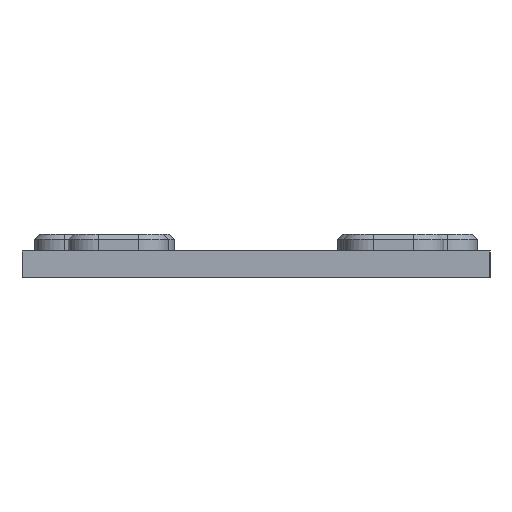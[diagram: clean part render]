
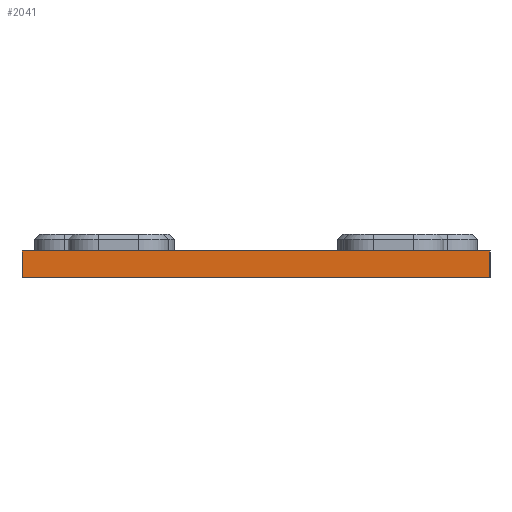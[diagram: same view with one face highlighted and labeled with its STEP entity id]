
A CAD part, left-side view. The second image highlights one B-rep face of the part: STEP entity #2041.
In plain terms, the highlighted planar face has unit normal (-1, 0, 0).
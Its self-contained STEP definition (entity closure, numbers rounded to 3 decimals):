
#265=FACE_OUTER_BOUND('',#415,.T.);
#415=EDGE_LOOP('',(#1561,#1562,#1563,#1564));
#575=LINE('',#3217,#759);
#595=LINE('',#3297,#779);
#602=LINE('',#3310,#786);
#603=LINE('',#3312,#787);
#759=VECTOR('',#2571,10.);
#779=VECTOR('',#2637,10.);
#786=VECTOR('',#2646,10.);
#787=VECTOR('',#2649,10.);
#954=VERTEX_POINT('',#3214);
#955=VERTEX_POINT('',#3216);
#992=VERTEX_POINT('',#3296);
#997=VERTEX_POINT('',#3308);
#1160=EDGE_CURVE('',#954,#955,#575,.T.);
#1202=EDGE_CURVE('',#955,#992,#595,.T.);
#1209=EDGE_CURVE('',#954,#997,#602,.T.);
#1210=EDGE_CURVE('',#992,#997,#603,.T.);
#1561=ORIENTED_EDGE('',*,*,#1160,.F.);
#1562=ORIENTED_EDGE('',*,*,#1209,.T.);
#1563=ORIENTED_EDGE('',*,*,#1210,.F.);
#1564=ORIENTED_EDGE('',*,*,#1202,.F.);
#1960=PLANE('',#2240);
#2041=ADVANCED_FACE('',(#265),#1960,.T.);
#2240=AXIS2_PLACEMENT_3D('',#3311,#2647,#2648);
#2571=DIRECTION('',(0.,-1.,0.));
#2637=DIRECTION('',(0.,0.,-1.));
#2646=DIRECTION('',(0.,0.,-1.));
#2647=DIRECTION('center_axis',(-1.,0.,0.));
#2648=DIRECTION('ref_axis',(0.,1.,0.));
#2649=DIRECTION('',(0.,1.,0.));
#3214=CARTESIAN_POINT('',(0.,140.,0.));
#3216=CARTESIAN_POINT('',(0.,0.,0.));
#3217=CARTESIAN_POINT('',(0.,35.,0.));
#3296=CARTESIAN_POINT('',(0.,0.,-8.));
#3297=CARTESIAN_POINT('',(0.,0.,0.));
#3308=CARTESIAN_POINT('',(0.,140.,-8.));
#3310=CARTESIAN_POINT('',(0.,140.,0.));
#3311=CARTESIAN_POINT('Origin',(0.,0.,0.));
#3312=CARTESIAN_POINT('',(0.,18.,-8.));
